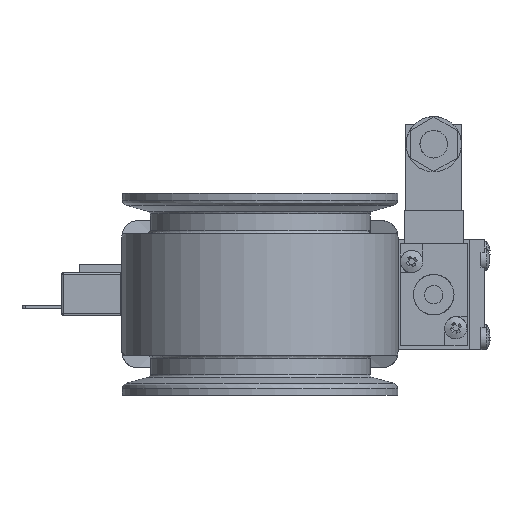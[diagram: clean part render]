
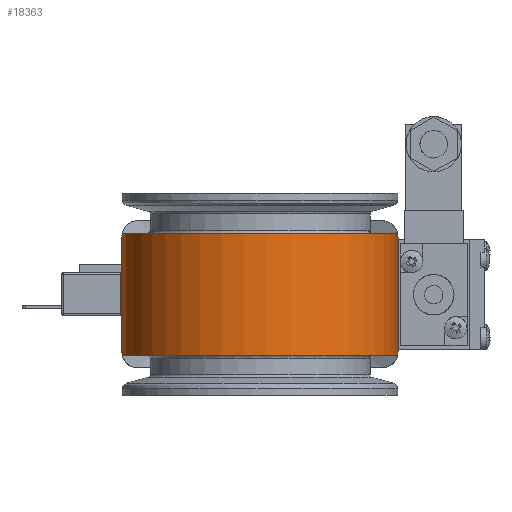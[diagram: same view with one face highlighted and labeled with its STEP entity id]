
A CAD part, front view. The second image highlights one B-rep face of the part: STEP entity #18363.
In plain terms, the highlighted free-form (B-spline) face has degree [2, 1] with [5, 2] control points.
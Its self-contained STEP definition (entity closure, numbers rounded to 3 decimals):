
#17821=CARTESIAN_POINT('V41',(16.5,-2.903,
   37.387));
#17822=VERTEX_POINT('V41',#17821);
#17828=CARTESIAN_POINT('V1',(15.5,0.,
   37.5));
#17829=VERTEX_POINT('V1',#17828);
#17830=CARTESIAN_POINT('E62',(16.5,-2.903,
   37.387));
#17831=CARTESIAN_POINT('E62',(16.171,-1.936,
   37.463));
#17832=CARTESIAN_POINT('E62',(15.826,-0.971,
   37.5));
#17833=CARTESIAN_POINT('E62',(15.5,0.,
   37.5));
#17834=B_SPLINE_CURVE_WITH_KNOTS('E62',3,(#17830,#17831,#17832,
   #17833),.UNSPECIFIED.,.F.,.U.,(4,4),(0.0,0.003),
   .UNSPECIFIED.);
#17835=EDGE_CURVE('E62',#17822,#17829,#17834,.T.);
#17851=CARTESIAN_POINT('V4',(-15.5,0.,
   37.5));
#17852=VERTEX_POINT('V4',#17851);
#17853=CARTESIAN_POINT('E4',(15.5,0.,
   37.5));
#17854=CARTESIAN_POINT('E4',(-15.5,0.,
   37.5));
#17855=QUASI_UNIFORM_CURVE('E4',1,(#17853,#17854),.POLYLINE_FORM.,
   .F.,.U.);
#17856=EDGE_CURVE('E4',#17829,#17852,#17855,.T.);
#17983=CARTESIAN_POINT('V42',(-16.5,-2.903,
   37.387));
#17984=VERTEX_POINT('V42',#17983);
#17985=CARTESIAN_POINT('E63',(-15.5,0.,
   37.5));
#17986=CARTESIAN_POINT('E63',(-15.826,-0.971,
   37.5));
#17987=CARTESIAN_POINT('E63',(-16.171,-1.936,
   37.463));
#17988=CARTESIAN_POINT('E63',(-16.5,-2.903,
   37.387));
#17989=B_SPLINE_CURVE_WITH_KNOTS('E63',3,(#17985,#17986,#17987,
   #17988),.UNSPECIFIED.,.F.,.U.,(4,4),(0.0,0.003),
   .UNSPECIFIED.);
#17990=EDGE_CURVE('E63',#17852,#17984,#17989,.T.);
#18011=CARTESIAN_POINT('V43',(-16.5,-2.903,
   -37.387));
#18012=VERTEX_POINT('V43',#18011);
#18020=CARTESIAN_POINT('E64',(-16.5,-2.903,
   -37.387));
#18021=CARTESIAN_POINT('E64',(-16.5,
   -11.383,-36.729));
#18022=CARTESIAN_POINT('E64',(-16.5,
   -18.75,-32.476));
#18023=CARTESIAN_POINT('E64',(-16.5,
   -75.,0.));
#18024=CARTESIAN_POINT('E64',(-16.5,
   -18.75,32.476));
#18025=CARTESIAN_POINT('E64',(-16.5,
   -11.383,36.729));
#18026=CARTESIAN_POINT('E64',(-16.5,-2.903,
   37.387));
#18034=(BOUNDED_CURVE()B_SPLINE_CURVE(2,(#18020,#18021,#18022,
   #18023,#18024,#18025,#18026),.CIRCULAR_ARC.,.F.,.U.)
   B_SPLINE_CURVE_WITH_KNOTS((3,2,2,3),(0.256,
   0.333,0.667,0.744),
   .UNSPECIFIED.)CURVE()GEOMETRIC_REPRESENTATION_ITEM()
   RATIONAL_B_SPLINE_CURVE((0.822,0.884,
   1.0,0.5,1.0,0.884,0.822))
   REPRESENTATION_ITEM('E64'));
#18035=EDGE_CURVE('E64',#18012,#17984,#18034,.T.);
#18057=CARTESIAN_POINT('V44',(-15.5,0.,
   -37.5));
#18058=VERTEX_POINT('V44',#18057);
#18059=CARTESIAN_POINT('E65',(-16.5,-2.903,
   -37.387));
#18060=CARTESIAN_POINT('E65',(-16.171,-1.936,
   -37.463));
#18061=CARTESIAN_POINT('E65',(-15.826,-0.971,
   -37.5));
#18062=CARTESIAN_POINT('E65',(-15.5,0.,
   -37.5));
#18063=B_SPLINE_CURVE_WITH_KNOTS('E65',3,(#18059,#18060,#18061,
   #18062),.UNSPECIFIED.,.F.,.U.,(4,4),(0.0,0.003),
   .UNSPECIFIED.);
#18064=EDGE_CURVE('E65',#18012,#18058,#18063,.T.);
#18291=CARTESIAN_POINT('V40',(16.5,-2.903,
   -37.387));
#18292=VERTEX_POINT('V40',#18291);
#18298=CARTESIAN_POINT('E61',(16.5,-2.903,
   -37.387));
#18299=CARTESIAN_POINT('E61',(16.5,-11.383,
   -36.729));
#18300=CARTESIAN_POINT('E61',(16.5,-18.75,
   -32.476));
#18301=CARTESIAN_POINT('E61',(16.5,-75.,
   0.));
#18302=CARTESIAN_POINT('E61',(16.5,-18.75,
   32.476));
#18303=CARTESIAN_POINT('E61',(16.5,-11.383,
   36.729));
#18304=CARTESIAN_POINT('E61',(16.5,-2.903,
   37.387));
#18312=(BOUNDED_CURVE()B_SPLINE_CURVE(2,(#18298,#18299,#18300,
   #18301,#18302,#18303,#18304),.CIRCULAR_ARC.,.F.,.U.)
   B_SPLINE_CURVE_WITH_KNOTS((3,2,2,3),(0.256,
   0.333,0.667,0.744),
   .UNSPECIFIED.)CURVE()GEOMETRIC_REPRESENTATION_ITEM()
   RATIONAL_B_SPLINE_CURVE((0.822,0.884,
   1.0,0.5,1.0,0.884,0.822))
   REPRESENTATION_ITEM('E61'));
#18313=EDGE_CURVE('E61',#18292,#17822,#18312,.T.);
#18323=CARTESIAN_POINT('F23',(16.6,0.996,
   -37.487));
#18324=CARTESIAN_POINT('F23',(16.6,-37.5,
   -38.509));
#18325=CARTESIAN_POINT('F23',(16.6,-37.5,
   0.));
#18326=CARTESIAN_POINT('F23',(16.6,-37.5,
   38.509));
#18327=CARTESIAN_POINT('F23',(16.6,0.996,
   37.487));
#18328=CARTESIAN_POINT('F23',(-16.6,0.996,
   -37.487));
#18329=CARTESIAN_POINT('F23',(-16.6,
   -37.5,-38.509));
#18330=CARTESIAN_POINT('F23',(-16.6,
   -37.5,0.));
#18331=CARTESIAN_POINT('F23',(-16.6,
   -37.5,38.509));
#18332=CARTESIAN_POINT('F23',(-16.6,0.996,
   37.487));
#18340=(BOUNDED_SURFACE()B_SPLINE_SURFACE(2,1,((#18323,#18328),(
   #18324,#18329),(#18325,#18330),(#18326,#18331),(#18327,
   #18332)),.CYLINDRICAL_SURF.,.F.,.F.,.U.)
   B_SPLINE_SURFACE_WITH_KNOTS((3,2,3),(2,2),(0.65,
   3.323,5.996),(0.0,1.0),.UNSPECIFIED.)
   GEOMETRIC_REPRESENTATION_ITEM()RATIONAL_B_SPLINE_SURFACE(((
   0.862,0.862),(0.648,
   0.648),(1.0,1.0),(0.648,
   0.648),(0.862,0.862)))
   REPRESENTATION_ITEM('F23')SURFACE());
#18341=CARTESIAN_POINT('V39',(15.5,0.,
   -37.5));
#18342=VERTEX_POINT('V39',#18341);
#18343=CARTESIAN_POINT('E60',(15.5,0.,
   -37.5));
#18344=CARTESIAN_POINT('E60',(15.826,-0.971,
   -37.5));
#18345=CARTESIAN_POINT('E60',(16.171,-1.936,
   -37.463));
#18346=CARTESIAN_POINT('E60',(16.5,-2.903,
   -37.387));
#18347=B_SPLINE_CURVE_WITH_KNOTS('E60',3,(#18343,#18344,#18345,
   #18346),.UNSPECIFIED.,.F.,.U.,(4,4),(0.0,0.003),
   .UNSPECIFIED.);
#18348=EDGE_CURVE('E60',#18342,#18292,#18347,.T.);
#18349=ORIENTED_EDGE('E60',*,*,#18348,.F.);
#18350=CARTESIAN_POINT('E66',(-15.5,0.,
   -37.5));
#18351=CARTESIAN_POINT('E66',(15.5,0.,
   -37.5));
#18352=QUASI_UNIFORM_CURVE('E66',1,(#18350,#18351),.POLYLINE_FORM.,
   .F.,.U.);
#18353=EDGE_CURVE('E66',#18058,#18342,#18352,.T.);
#18354=ORIENTED_EDGE('E66',*,*,#18353,.F.);
#18355=ORIENTED_EDGE('E65',*,*,#18064,.F.);
#18356=ORIENTED_EDGE('F60',*,*,#18035,.T.);
#18357=ORIENTED_EDGE('E63',*,*,#17990,.F.);
#18358=ORIENTED_EDGE('E4',*,*,#17856,.F.);
#18359=ORIENTED_EDGE('E62',*,*,#17835,.F.);
#18360=ORIENTED_EDGE('E61',*,*,#18313,.F.);
#18361=EDGE_LOOP('F23',(#18349,#18354,#18355,#18356,#18357,#18358,
   #18359,#18360));
#18362=FACE_OUTER_BOUND('F23',#18361,.F.);
#18363=ADVANCED_FACE('F23',(#18362),#18340,.T.);
